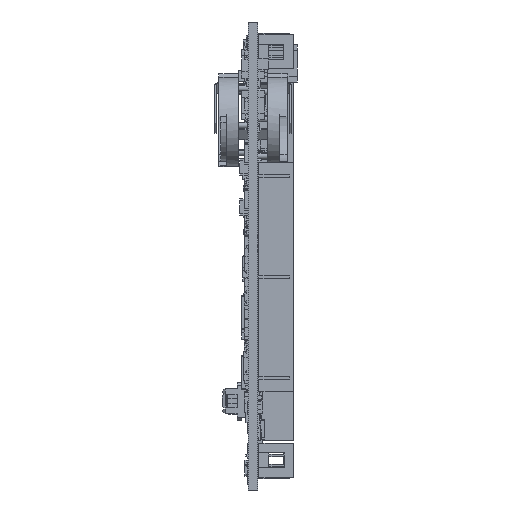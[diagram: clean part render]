
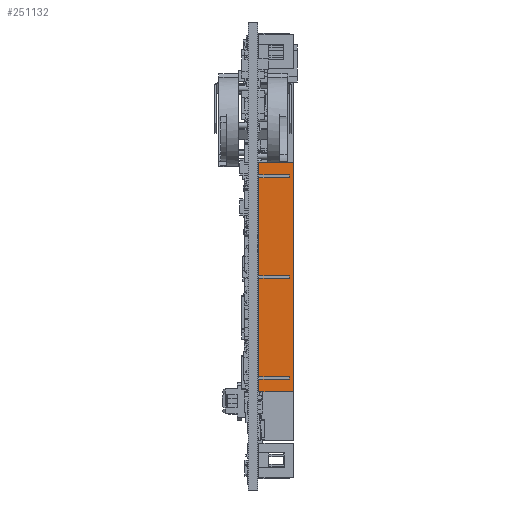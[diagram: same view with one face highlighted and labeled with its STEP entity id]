
A CAD part, left-side view. The second image highlights one B-rep face of the part: STEP entity #251132.
In plain terms, the highlighted planar face has unit normal (-1, 0, 0).
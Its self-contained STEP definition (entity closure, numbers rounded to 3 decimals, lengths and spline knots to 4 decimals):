
#73194=DIRECTION('',(0.,0.,1.));
#73195=VECTOR('',#73194,2.3);
#73196=CARTESIAN_POINT('',(-4.0252,-0.3583,-1.712));
#73197=LINE('',#73196,#73195);
#73278=DIRECTION('',(0.,0.,1.));
#73279=VECTOR('',#73278,0.9846);
#73280=CARTESIAN_POINT('',(-4.0252,-0.0118,
-1.5604));
#73281=LINE('',#73280,#73279);
#73282=DIRECTION('',(0.,-1.,0.));
#73283=VECTOR('',#73282,0.3071);
#73284=CARTESIAN_POINT('',(-4.0252,-0.0118,
-0.5758));
#73285=LINE('',#73284,#73283);
#73286=DIRECTION('',(0.,1.,0.));
#73287=VECTOR('',#73286,0.3071);
#73288=CARTESIAN_POINT('',(-4.0252,-0.3189,
-0.5482));
#73289=LINE('',#73288,#73287);
#73290=DIRECTION('',(0.,0.,1.));
#73291=VECTOR('',#73290,0.9846);
#73292=CARTESIAN_POINT('',(-4.0252,-0.0118,
-0.5482));
#73293=LINE('',#73292,#73291);
#73294=DIRECTION('',(0.,-1.,0.));
#73295=VECTOR('',#73294,0.3071);
#73296=CARTESIAN_POINT('',(-4.0252,-0.0118,
0.4364));
#73297=LINE('',#73296,#73295);
#73298=DIRECTION('',(0.,1.,0.));
#73299=VECTOR('',#73298,0.3071);
#73300=CARTESIAN_POINT('',(-4.0252,-0.3189,
0.464));
#73301=LINE('',#73300,#73299);
#73302=DIRECTION('',(0.,0.,1.));
#73303=VECTOR('',#73302,0.124);
#73304=CARTESIAN_POINT('',(-4.0252,-0.0118,
0.464));
#73305=LINE('',#73304,#73303);
#73306=DIRECTION('',(0.,-1.,0.));
#73307=VECTOR('',#73306,0.3465);
#73308=CARTESIAN_POINT('',(-4.0252,-0.0118,0.588));
#73309=LINE('',#73308,#73307);
#73310=DIRECTION('',(0.,1.,0.));
#73311=VECTOR('',#73310,0.3465);
#73312=CARTESIAN_POINT('',(-4.0252,-0.3583,-1.712));
#73313=LINE('',#73312,#73311);
#73314=DIRECTION('',(0.,0.,1.));
#73315=VECTOR('',#73314,0.124);
#73316=CARTESIAN_POINT('',(-4.0252,-0.0118,-1.712));
#73317=LINE('',#73316,#73315);
#73318=DIRECTION('',(0.,-1.,0.));
#73319=VECTOR('',#73318,0.3071);
#73320=CARTESIAN_POINT('',(-4.0252,-0.0118,
-1.588));
#73321=LINE('',#73320,#73319);
#73322=DIRECTION('',(0.,1.,0.));
#73323=VECTOR('',#73322,0.3071);
#73324=CARTESIAN_POINT('',(-4.0252,-0.3189,
-1.5604));
#73325=LINE('',#73324,#73323);
#73350=DIRECTION('',(0.,0.,-1.));
#73351=VECTOR('',#73350,0.0276);
#73352=CARTESIAN_POINT('',(-4.0252,-0.3189,
-0.5482));
#73353=LINE('',#73352,#73351);
#73386=DIRECTION('',(0.,0.,-1.));
#73387=VECTOR('',#73386,0.0276);
#73388=CARTESIAN_POINT('',(-4.0252,-0.3189,
0.464));
#73389=LINE('',#73388,#73387);
#73422=DIRECTION('',(0.,0.,-1.));
#73423=VECTOR('',#73422,0.0276);
#73424=CARTESIAN_POINT('',(-4.0252,-0.3189,
-1.5604));
#73425=LINE('',#73424,#73423);
#120740=CARTESIAN_POINT('',(-4.0252,-0.0118,0.588));
#120741=VERTEX_POINT('',#120740);
#120742=CARTESIAN_POINT('',(-4.0252,-0.0118,
0.464));
#120743=VERTEX_POINT('',#120742);
#120748=CARTESIAN_POINT('',(-4.0252,-0.0118,
0.4364));
#120749=VERTEX_POINT('',#120748);
#120750=CARTESIAN_POINT('',(-4.0252,-0.0118,
-0.5482));
#120751=VERTEX_POINT('',#120750);
#120756=CARTESIAN_POINT('',(-4.0252,-0.0118,
-0.5758));
#120757=VERTEX_POINT('',#120756);
#120758=CARTESIAN_POINT('',(-4.0252,-0.0118,
-1.5604));
#120759=VERTEX_POINT('',#120758);
#120764=CARTESIAN_POINT('',(-4.0252,-0.0118,
-1.588));
#120765=VERTEX_POINT('',#120764);
#120766=CARTESIAN_POINT('',(-4.0252,-0.0118,-1.712));
#120767=VERTEX_POINT('',#120766);
#121070=CARTESIAN_POINT('',(-4.0252,-0.3189,
-1.5604));
#121071=VERTEX_POINT('',#121070);
#121074=CARTESIAN_POINT('',(-4.0252,-0.3189,
-1.588));
#121075=VERTEX_POINT('',#121074);
#121076=CARTESIAN_POINT('',(-4.0252,-0.3583,-1.712));
#121077=VERTEX_POINT('',#121076);
#121098=CARTESIAN_POINT('',(-4.0252,-0.3583,0.588));
#121099=VERTEX_POINT('',#121098);
#121102=CARTESIAN_POINT('',(-4.0252,-0.3189,
0.464));
#121103=VERTEX_POINT('',#121102);
#121106=CARTESIAN_POINT('',(-4.0252,-0.3189,
0.4364));
#121107=VERTEX_POINT('',#121106);
#121110=CARTESIAN_POINT('',(-4.0252,-0.3189,
-0.5482));
#121111=VERTEX_POINT('',#121110);
#121114=CARTESIAN_POINT('',(-4.0252,-0.3189,
-0.5758));
#121115=VERTEX_POINT('',#121114);
#251100=CARTESIAN_POINT('',(-4.0252,-0.185,-0.562));
#251101=DIRECTION('',(1.,0.,0.));
#251102=DIRECTION('',(0.,0.,1.));
#251103=AXIS2_PLACEMENT_3D('',#251100,#251101,#251102);
#251104=PLANE('',#251103);
#251105=ORIENTED_EDGE('',*,*,#249684,.T.);
#251107=ORIENTED_EDGE('',*,*,#251106,.T.);
#251109=ORIENTED_EDGE('',*,*,#251108,.F.);
#251111=ORIENTED_EDGE('',*,*,#251110,.T.);
#251112=ORIENTED_EDGE('',*,*,#249676,.T.);
#251114=ORIENTED_EDGE('',*,*,#251113,.T.);
#251116=ORIENTED_EDGE('',*,*,#251115,.F.);
#251118=ORIENTED_EDGE('',*,*,#251117,.T.);
#251119=ORIENTED_EDGE('',*,*,#249668,.T.);
#251120=ORIENTED_EDGE('',*,*,#250937,.T.);
#251121=ORIENTED_EDGE('',*,*,#250968,.F.);
#251122=ORIENTED_EDGE('',*,*,#251088,.T.);
#251123=ORIENTED_EDGE('',*,*,#249692,.T.);
#251125=ORIENTED_EDGE('',*,*,#251124,.T.);
#251127=ORIENTED_EDGE('',*,*,#251126,.F.);
#251129=ORIENTED_EDGE('',*,*,#251128,.T.);
#251130=EDGE_LOOP('',(#251105,#251107,#251109,#251111,#251112,#251114,#251116,
#251118,#251119,#251120,#251121,#251122,#251123,#251125,#251127,#251129));
#251131=FACE_OUTER_BOUND('',#251130,.F.);
#251132=ADVANCED_FACE('',(#251131),#251104,.F.);
#249668=EDGE_CURVE('',#120743,#120741,#73305,.T.);
#249676=EDGE_CURVE('',#120751,#120749,#73293,.T.);
#249684=EDGE_CURVE('',#120759,#120757,#73281,.T.);
#249692=EDGE_CURVE('',#120767,#120765,#73317,.T.);
#250937=EDGE_CURVE('',#120741,#121099,#73309,.T.);
#250968=EDGE_CURVE('',#121077,#121099,#73197,.T.);
#251088=EDGE_CURVE('',#121077,#120767,#73313,.T.);
#251106=EDGE_CURVE('',#120757,#121115,#73285,.T.);
#251108=EDGE_CURVE('',#121111,#121115,#73353,.T.);
#251110=EDGE_CURVE('',#121111,#120751,#73289,.T.);
#251113=EDGE_CURVE('',#120749,#121107,#73297,.T.);
#251115=EDGE_CURVE('',#121103,#121107,#73389,.T.);
#251117=EDGE_CURVE('',#121103,#120743,#73301,.T.);
#251124=EDGE_CURVE('',#120765,#121075,#73321,.T.);
#251126=EDGE_CURVE('',#121071,#121075,#73425,.T.);
#251128=EDGE_CURVE('',#121071,#120759,#73325,.T.);
